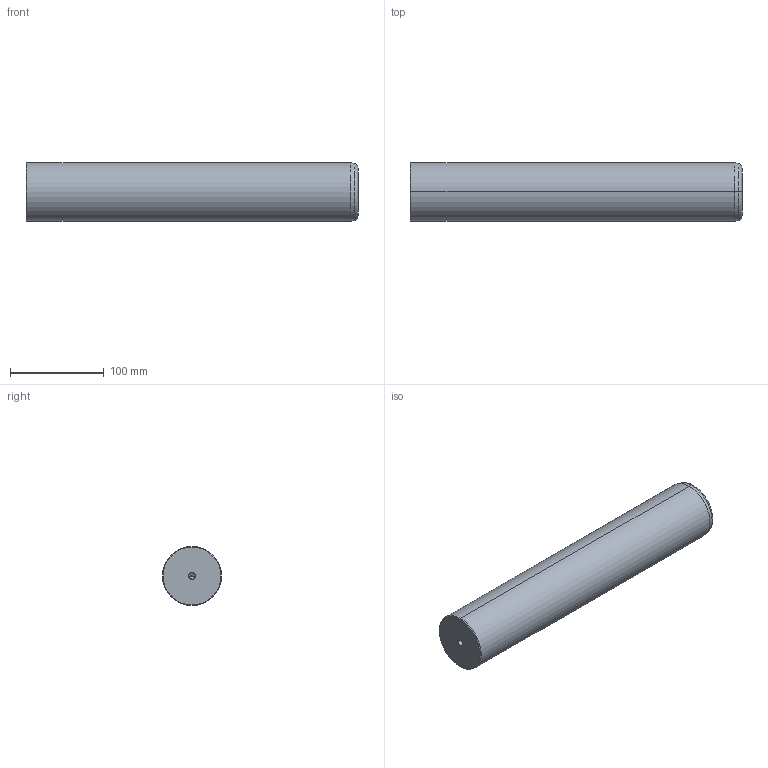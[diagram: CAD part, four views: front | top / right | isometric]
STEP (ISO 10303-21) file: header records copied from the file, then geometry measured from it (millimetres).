
FILE_DESCRIPTION(('CATIA V5 STEP Exchange'),'2;1');
FILE_NAME('C:\Users\Utente\Desktop\IO LAVORO\3D X SITO CF\X SITO\720\720-63x355.stp','2020-12-30T21:27:34+00:00',('none'),('none'),'CATIA Version 5 Release 20 GA (IN-10)','CATIA V5 STEP AP203','none');
FILE_SCHEMA(('CONFIG_CONTROL_DESIGN'));
Length unit declared in the file: millimetre
Products named in the file (1): 720-63x355
Bounding box: 355 x 63 x 63 mm (x, y, z)
Volume: 1102677 mm3; surface area: 76784.3 mm2
Topology: 1 solids, 1 shells, 22 faces, 62 edges, 40 vertices
Faces by surface type: cone 12, cylinder 6, plane 2, torus 2
Entity records: 806 total; most frequent: CARTESIAN_POINT 229, ORIENTED_EDGE 116, DIRECTION 93, EDGE_CURVE 58, AXIS2_PLACEMENT_3D 54, VERTEX_POINT 40, CIRCLE 31, EDGE_LOOP 24
